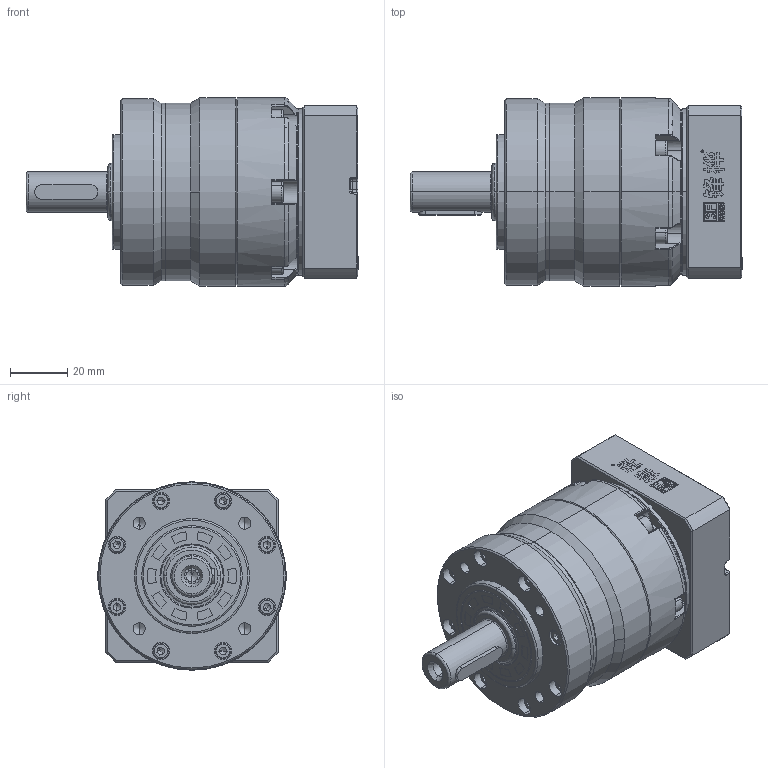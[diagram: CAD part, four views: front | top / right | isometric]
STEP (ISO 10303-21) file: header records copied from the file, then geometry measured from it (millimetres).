
FILE_DESCRIPTION (( 'STEP AP214' ), '1' );
FILE_NAME ('FE060-L1-S2-P2 14-50-70-M4.STEP', '2021-04-23T07:29:52', ( 'Microsoft' ), ( 'Microsoft China' ), 'SwSTEP 2.0', 'SolidWorks 2016', '' );
FILE_SCHEMA (( 'AUTOMOTIVE_DESIGN' ));
Length unit declared in the file: millimetre
Products named in the file (14): 坶踡遠18-37-12(1); 输入太阳齿轮060D-14; 11-输入法兰FE060D-50-70-M4; FE060-L1-S2-P2 14-50-70-M4; 10-怀堤傷褲极FE060; A倰す瑩5-22; FE060D怀堤俴陎殤-14粣; hexagon socket head cap screws gb_GB_FASTENER_SCREWS_HSHCS M4X12-N; hexagon socket head cap screws gb_GB_FASTENER_SCREWS_HSHCS M3X12-N; hex socket set screws with cone point gb_GB_FASTENER_SCREWS_HSCP M10X10-N; hexagon socket head cap screws gb_GB_FASTENER_SCREWS_HSHCS M4X16-N; 蚐猾20355; FE060齿圈; 3-输入端壳体FE064D
Assembly tree (28 placements, depth 2):
  FE060-L1-S2-P2 14-50-70-M4
    11-输入法兰FE060D-50-70-M4
    输入太阳齿轮060D-14
    坶踡遠18-37-12(1)
    3-输入端壳体FE064D
    FE060齿圈
    蚐猾20355
    hexagon socket head cap screws gb_GB_FASTENER_SCREWS_HSHCS M4X16-N  x4
    hex socket set screws with cone point gb_GB_FASTENER_SCREWS_HSCP M10X10-N
    hexagon socket head cap screws gb_GB_FASTENER_SCREWS_HSHCS M3X12-N  x8
    hexagon socket head cap screws gb_GB_FASTENER_SCREWS_HSHCS M4X12-N  x6
    FE060D怀堤俴陎殤-14粣
    A倰す瑩5-22
    10-怀堤傷褲极FE060
Bounding box: 115.5 x 65.5 x 65.5 mm (x, y, z)
Volume: 243603.3 mm3; surface area: 73811.5 mm2
Topology: 29 solids, 34 shells, 1739 faces, 4265 edges, 2622 vertices
Faces by surface type: plane 722, cylinder 376, cone 253, bspline 204, torus 184
Entity records: 64453 total; most frequent: CARTESIAN_POINT 17228, ORIENTED_EDGE 6738, DIRECTION 6303, EDGE_CURVE 3369, AXIS2_PLACEMENT_3D 2322, VERTEX_POINT 2127, VECTOR 1659, LINE 1659
